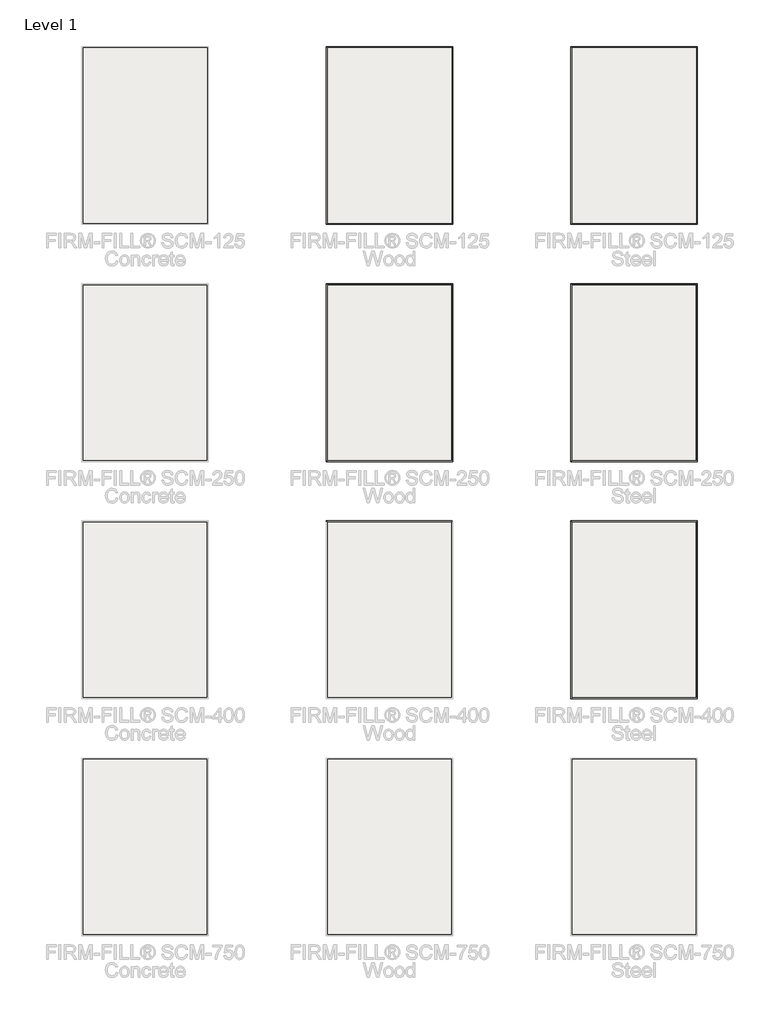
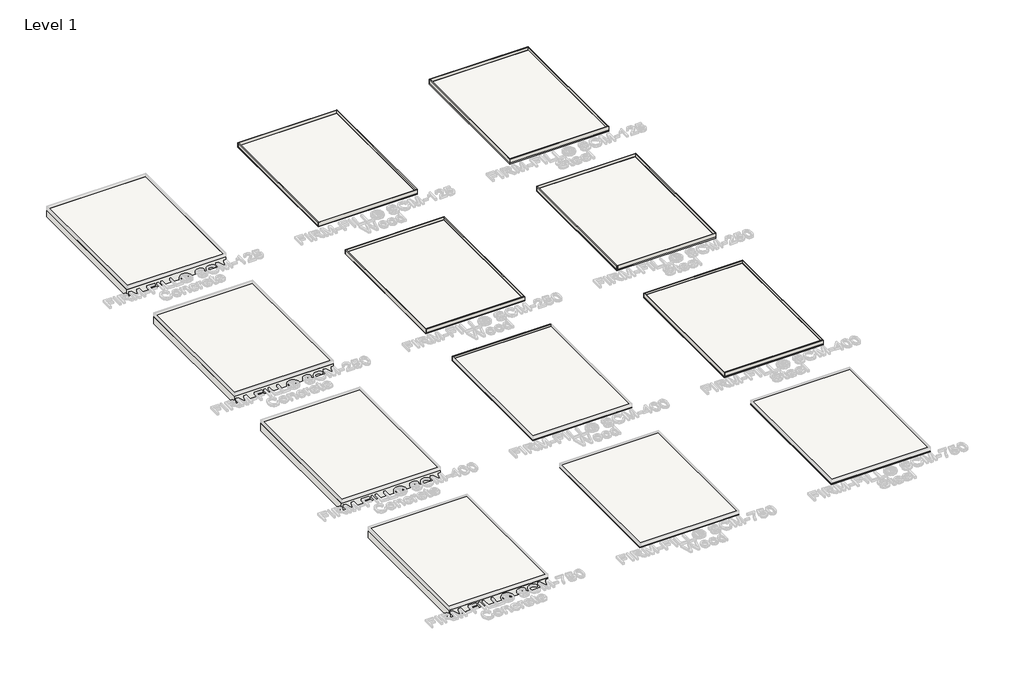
# One storey, part 2 of 10: 34 walls, 26 slabs.
"""IFC4 building model written with IfcOpenShell, lengths in millimetres."""

from ifc_helpers import new_model, si_unit, frame, origin, place, context, project, spatial, polyline, outline, extrude, faceted_brep, element, save

model = new_model("IFC4")

# Units and contexts
model_context = context("Model", 3, world=origin())
ifc_project = project(units=[si_unit("LENGTHUNIT", "METRE", prefix="MILLI")], contexts=[model_context])

# Site, building, storey
site = spatial("IfcSite", under=ifc_project)
building = spatial("IfcBuilding", under=site)
storey = spatial("IfcBuildingStorey", under=building, Name="Level 1", Elevation=0.0)

# Slabs
placement = place(None, origin())
element("IfcSlab", 1, ObjectType="FIRM-FILL® SCM-250", at=placement, inside=storey, context=model_context, shape_type="SweptSolid", body=[
    extrude(outline(polyline([(-2050.1556154, -5280.3364307), (-2050.1556154, -8937.9364307), (-4640.9556154, -8937.9364307), (-4640.9556154, -5280.3364307), (-2050.1556154, -5280.3364307)])), frame((0.0, 0.0, -31.75), z_axis=(0.0, 0.0, 1.0), x_axis=(1.0, 0.0, 0.0)), (0.0, 0.0, 1.0), 31.75),
])
element("IfcSlab", 2, ObjectType="FIRM-FILL® SCM-400", at=placement, inside=storey, context=model_context, shape_type="SweptSolid", body=[
    extrude(outline(polyline([(-2050.1556154, -10207.9364307), (-2050.1556154, -13865.5364307), (-4640.9556154, -13865.5364307), (-4640.9556154, -10207.9364307), (-2050.1556154, -10207.9364307)])), frame((0.0, 0.0, -41.91), z_axis=(0.0, 0.0, 1.0), x_axis=(1.0, 0.0, 0.0)), (0.0, 0.0, 1.0), 41.91),
])
element("IfcSlab", 3, ObjectType="FIRM-FILL® SCM-750", at=placement, inside=storey, context=model_context, shape_type="SweptSolid", body=[
    extrude(outline(polyline([(-2050.1556154, -15135.5364307), (-2050.1556154, -18793.1364307), (-4640.9556154, -18793.1364307), (-4640.9556154, -15135.5364307), (-2050.1556154, -15135.5364307)])), frame((0.0, 0.0, -57.15), z_axis=(0.0, 0.0, 1.0), x_axis=(1.0, 0.0, 0.0)), (0.0, 0.0, 1.0), 57.15),
])
element("IfcSlab", 4, ObjectType="FIRM-FILL® SCM-125", at=placement, inside=storey, context=model_context, shape_type="SweptSolid", body=[
    extrude(outline(polyline([(-2050.1556154, -352.7364307), (-2050.1556154, -4010.3364307), (-4640.9556154, -4010.3364307), (-4640.9556154, -352.7364307), (-2050.1556154, -352.7364307)])), frame((0.0, 0.0, -22.225), z_axis=(0.0, 0.0, 1.0), x_axis=(1.0, 0.0, 0.0)), (0.0, 0.0, 1.0), 22.225),
])
element("IfcSlab", 5, ObjectType="FIRM-FILL® SCM-250", at=placement, inside=storey, context=model_context, shape_type="SweptSolid", body=[
    extrude(outline(polyline([(3029.8443846, -5280.3364307), (3029.8443846, -8937.9364307), (439.0443846, -8937.9364307), (439.0443846, -5280.3364307), (3029.8443846, -5280.3364307)])), frame((0.0, 0.0, -31.75), z_axis=(0.0, 0.0, 1.0), x_axis=(1.0, 0.0, 0.0)), (0.0, 0.0, 1.0), 31.75),
])
element("IfcSlab", 6, ObjectType="FIRM-FILL® SCM-400", at=placement, inside=storey, context=model_context, shape_type="SweptSolid", body=[
    extrude(outline(polyline([(3029.8443846, -10207.9364307), (3029.8443846, -13865.5364307), (439.0443846, -13865.5364307), (439.0443846, -10207.9364307), (3029.8443846, -10207.9364307)])), frame((0.0, 0.0, -41.91), z_axis=(0.0, 0.0, 1.0), x_axis=(1.0, 0.0, 0.0)), (0.0, 0.0, 1.0), 41.91),
])
element("IfcSlab", 7, ObjectType="FIRM-FILL® SCM-750", at=placement, inside=storey, context=model_context, shape_type="SweptSolid", body=[
    extrude(outline(polyline([(3029.8443846, -15135.5364307), (3029.8443846, -18793.1364307), (439.0443846, -18793.1364307), (439.0443846, -15135.5364307), (3029.8443846, -15135.5364307)])), frame((0.0, 0.0, -57.15), z_axis=(0.0, 0.0, 1.0), x_axis=(1.0, 0.0, 0.0)), (0.0, 0.0, 1.0), 57.15),
])
element("IfcSlab", 8, ObjectType="FIRM-FILL® SCM-125", at=placement, inside=storey, context=model_context, shape_type="SweptSolid", body=[
    extrude(outline(polyline([(3029.8443846, -352.7364307), (3029.8443846, -4010.3364307), (439.0443846, -4010.3364307), (439.0443846, -352.7364307), (3029.8443846, -352.7364307)])), frame((0.0, 0.0, -22.225), z_axis=(0.0, 0.0, 1.0), x_axis=(1.0, 0.0, 0.0)), (0.0, 0.0, 1.0), 22.225),
])
element("IfcSlab", 9, ObjectType="FIRM-FILL® SCM-250", at=placement, inside=storey, context=model_context, shape_type="SweptSolid", body=[
    extrude(outline(polyline([(8109.8443846, -5280.3364307), (8109.8443846, -8937.9364307), (5519.0443846, -8937.9364307), (5519.0443846, -5280.3364307), (8109.8443846, -5280.3364307)])), frame((0.0, 0.0, -31.75), z_axis=(0.0, 0.0, 1.0), x_axis=(1.0, 0.0, 0.0)), (0.0, 0.0, 1.0), 31.75),
])
element("IfcSlab", 10, ObjectType="FIRM-FILL® SCM-400", at=placement, inside=storey, context=model_context, shape_type="SweptSolid", body=[
    extrude(outline(polyline([(8109.8443846, -10207.9364307), (8109.8443846, -13865.5364307), (5519.0443846, -13865.5364307), (5519.0443846, -10207.9364307), (8109.8443846, -10207.9364307)])), frame((0.0, 0.0, -41.91), z_axis=(0.0, 0.0, 1.0), x_axis=(1.0, 0.0, 0.0)), (0.0, 0.0, 1.0), 41.91),
])
element("IfcSlab", 11, ObjectType="FIRM-FILL® SCM-750", at=placement, inside=storey, context=model_context, shape_type="SweptSolid", body=[
    extrude(outline(polyline([(8109.8443846, -15135.5364307), (8109.8443846, -18793.1364307), (5519.0443846, -18793.1364307), (5519.0443846, -15135.5364307), (8109.8443846, -15135.5364307)])), frame((0.0, 0.0, -57.15), z_axis=(0.0, 0.0, 1.0), x_axis=(1.0, 0.0, 0.0)), (0.0, 0.0, 1.0), 57.15),
])
element("IfcSlab", 12, ObjectType="FIRM-FILL® SCM-125", at=placement, inside=storey, context=model_context, shape_type="SweptSolid", body=[
    extrude(outline(polyline([(8109.8443846, -352.7364307), (8109.8443846, -4010.3364307), (5519.0443846, -4010.3364307), (5519.0443846, -352.7364307), (8109.8443846, -352.7364307)])), frame((0.0, 0.0, -22.225), z_axis=(0.0, 0.0, 1.0), x_axis=(1.0, 0.0, 0.0)), (0.0, 0.0, 1.0), 22.225),
])
element("IfcSlab", 13, ObjectType="1 3/8\" Metal Deck", at=placement, inside=storey, context=model_context, shape_type="SweptSolid", body=[
    extrude(outline(polyline([(5499.9943846, -15116.4864307), (8128.8943846, -15116.4864307), (8128.8943846, -18812.1864307), (5499.9943846, -18812.1864307), (5499.9943846, -15116.4864307)])), frame((0.0, 0.0, -92.075), z_axis=(0.0, 0.0, 1.0), x_axis=(1.0, 0.0, 0.0)), (0.0, 0.0, 1.0), 34.925),
])
element("IfcSlab", 14, ObjectType="1 3/8\" Metal Deck", at=placement, inside=storey, context=model_context, shape_type="SweptSolid", body=[
    extrude(outline(polyline([(5499.9943846, -10188.8864307), (8128.8943846, -10188.8864307), (8128.8943846, -13884.5864307), (5499.9943846, -13884.5864307), (5499.9943846, -10188.8864307)])), frame((0.0, 0.0, -76.835), z_axis=(0.0, 0.0, 1.0), x_axis=(1.0, 0.0, 0.0)), (0.0, 0.0, 1.0), 34.925),
])
element("IfcSlab", 15, ObjectType="1 3/8\" Metal Deck", at=placement, inside=storey, context=model_context, shape_type="SweptSolid", body=[
    extrude(outline(polyline([(5499.9943846, -5261.2864307), (8128.8943846, -5261.2864307), (8128.8943846, -8956.9864307), (5499.9943846, -8956.9864307), (5499.9943846, -5261.2864307)])), frame((0.0, 0.0, -66.675), z_axis=(0.0, 0.0, 1.0), x_axis=(1.0, 0.0, 0.0)), (0.0, 0.0, 1.0), 34.925),
])
element("IfcSlab", 16, ObjectType="1 3/8\" Metal Deck", at=placement, inside=storey, context=model_context, shape_type="SweptSolid", body=[
    extrude(outline(polyline([(5499.9943846, -333.6864307), (8128.8943846, -333.6864307), (8128.8943846, -4029.3864307), (5499.9943846, -4029.3864307), (5499.9943846, -333.6864307)])), frame((0.0, 0.0, -57.15), z_axis=(0.0, 0.0, 1.0), x_axis=(1.0, 0.0, 0.0)), (0.0, 0.0, 1.0), 34.925),
])
element("IfcSlab", 17, ObjectType="Concrete Subfloor", at=placement, inside=storey, context=model_context, shape_type="SweptSolid", body=[
    extrude(outline(polyline([(-4660.0056154, -15116.4864307), (-2031.1056154, -15116.4864307), (-2031.1056154, -18812.1864307), (-4660.0056154, -18812.1864307), (-4660.0056154, -15116.4864307)])), frame((0.0, 0.0, -260.35), z_axis=(0.0, 0.0, 1.0), x_axis=(1.0, 0.0, 0.0)), (0.0, 0.0, 1.0), 203.2),
])
element("IfcSlab", 18, ObjectType="Concrete Subfloor", at=placement, inside=storey, context=model_context, shape_type="SweptSolid", body=[
    extrude(outline(polyline([(-4660.0056154, -10188.8864307), (-2031.1056154, -10188.8864307), (-2031.1056154, -13884.5864307), (-4660.0056154, -13884.5864307), (-4660.0056154, -10188.8864307)])), frame((0.0, 0.0, -245.11), z_axis=(0.0, 0.0, 1.0), x_axis=(1.0, 0.0, 0.0)), (0.0, 0.0, 1.0), 203.2),
])
element("IfcSlab", 19, ObjectType="Concrete Subfloor", at=placement, inside=storey, context=model_context, shape_type="SweptSolid", body=[
    extrude(outline(polyline([(-4660.0056154, -5261.2864307), (-2031.1056154, -5261.2864307), (-2031.1056154, -8956.9864307), (-4660.0056154, -8956.9864307), (-4660.0056154, -5261.2864307)])), frame((0.0, 0.0, -234.95), z_axis=(0.0, 0.0, 1.0), x_axis=(1.0, 0.0, 0.0)), (0.0, 0.0, 1.0), 203.2),
])
element("IfcSlab", 20, ObjectType="Concrete Subfloor", at=placement, inside=storey, context=model_context, shape_type="SweptSolid", body=[
    extrude(outline(polyline([(-4660.0056154, -333.6864307), (-2031.1056154, -333.6864307), (-2031.1056154, -4029.3864307), (-4660.0056154, -4029.3864307), (-4660.0056154, -333.6864307)])), frame((0.0, 0.0, -225.425), z_axis=(0.0, 0.0, 1.0), x_axis=(1.0, 0.0, 0.0)), (0.0, 0.0, 1.0), 203.2),
])
element("IfcSlab", 21, ObjectType="PERIMETER ISOLATION", at=placement, inside=storey, context=model_context, shape_type="SweptSolid", body=[
    extrude(outline(polyline([(-4644.1306154, -349.5614307), (-2046.9806154, -349.5614307), (-2046.9806154, -4013.5114307), (-4644.1306154, -4013.5114307), (-4644.1306154, -349.5614307)]), holes=[polyline([(-4640.9556154, -352.7364307), (-4640.9556154, -4010.3364307), (-2050.1556154, -4010.3364307), (-2050.1556154, -352.7364307), (-4640.9556154, -352.7364307)])]), frame((0.0, 0.0, -22.225), z_axis=(0.0, 0.0, 1.0), x_axis=(1.0, 0.0, 0.0)), (0.0, 0.0, 1.0), 22.225),
])
element("IfcSlab", 22, ObjectType="PERIMETER ISOLATION", at=placement, inside=storey, context=model_context, shape_type="SweptSolid", body=[
    extrude(outline(polyline([(435.8693846, -349.5614307), (3033.0193846, -349.5614307), (3033.0193846, -4013.5114307), (435.8693846, -4013.5114307), (435.8693846, -349.5614307)]), holes=[polyline([(439.0443846, -352.7364307), (439.0443846, -4010.3364307), (3029.8443846, -4010.3364307), (3029.8443846, -352.7364307), (439.0443846, -352.7364307)])]), frame((0.0, 0.0, -22.225), z_axis=(0.0, 0.0, 1.0), x_axis=(1.0, 0.0, 0.0)), (0.0, 0.0, 1.0), 22.225),
])
element("IfcSlab", 23, ObjectType="Wood Subfloor", at=placement, inside=storey, context=model_context, shape_type="SweptSolid", body=[
    extrude(outline(polyline([(419.9943846, -15116.4864307), (3048.8943846, -15116.4864307), (3048.8943846, -18812.1864307), (419.9943846, -18812.1864307), (419.9943846, -15116.4864307)])), frame((0.0, 0.0, -76.2), z_axis=(0.0, 0.0, 1.0), x_axis=(1.0, 0.0, 0.0)), (0.0, 0.0, 1.0), 19.05),
])
element("IfcSlab", 24, ObjectType="Wood Subfloor", at=placement, inside=storey, context=model_context, shape_type="SweptSolid", body=[
    extrude(outline(polyline([(419.9943846, -10188.8864307), (3048.8943846, -10188.8864307), (3048.8943846, -13884.5864307), (419.9943846, -13884.5864307), (419.9943846, -10188.8864307)])), frame((0.0, 0.0, -60.96), z_axis=(0.0, 0.0, 1.0), x_axis=(1.0, 0.0, 0.0)), (0.0, 0.0, 1.0), 19.05),
])
element("IfcSlab", 25, ObjectType="Wood Subfloor", at=placement, inside=storey, context=model_context, shape_type="SweptSolid", body=[
    extrude(outline(polyline([(419.9943846, -5261.2864307), (3048.8943846, -5261.2864307), (3048.8943846, -8956.9864307), (419.9943846, -8956.9864307), (419.9943846, -5261.2864307)])), frame((0.0, 0.0, -50.8), z_axis=(0.0, 0.0, 1.0), x_axis=(1.0, 0.0, 0.0)), (0.0, 0.0, 1.0), 19.05),
])
element("IfcSlab", 26, ObjectType="Wood Subfloor", at=placement, inside=storey, context=model_context, shape_type="SweptSolid", body=[
    extrude(outline(polyline([(419.9943846, -333.6864307), (3048.8943846, -333.6864307), (3048.8943846, -4029.3864307), (419.9943846, -4029.3864307), (419.9943846, -333.6864307)])), frame((0.0, 0.0, -41.275), z_axis=(0.0, 0.0, 1.0), x_axis=(1.0, 0.0, 0.0)), (0.0, 0.0, 1.0), 19.05),
])

# Walls
element("IfcWall", 27, ObjectType="5/8\" Gypsum Board", at=placement, inside=storey, context=model_context, shape_type="Brep", body=[
    faceted_brep([(419.9943846, -10204.7614307, -41.91), (435.8693846, -10204.7614307, -41.91), (3033.0193846, -10204.7614307, -41.91), (3033.0193846, -10204.7614307, 59.69), (435.8693846, -10204.7614307, 59.69), (419.9943846, -10204.7614307, 59.69), (419.9943846, -10188.8864307, -41.91), (419.9943846, -10188.8864307, 59.69), (3033.0193846, -10188.8864307, 59.69), (3033.0193846, -10188.8864307, -41.91)], [[[0, 1, 2, 3, 4, 5]], [[6, 7, 8, 9]], [[2, 1, 0, 6, 9]], [[5, 4, 3, 8, 7]], [[3, 2, 9, 8]], [[0, 5, 7, 6]]]),
])
element("IfcWall", 28, ObjectType="5/8\" Gypsum Board", at=placement, inside=storey, context=model_context, shape_type="Brep", body=[
    faceted_brep([(5499.9943846, -10204.7614307, -41.91), (5499.9943846, -13884.5864307, -41.91), (5499.9943846, -13884.5864307, 59.69), (5499.9943846, -10204.7614307, 59.69), (5515.8693846, -10204.7614307, -41.91), (5515.8693846, -10204.7614307, 59.69), (5515.8693846, -13868.7114307, 59.69), (5515.8693846, -13884.5864307, 59.69), (5515.8693846, -13884.5864307, -41.91), (5515.8693846, -13868.7114307, -41.91)], [[[0, 1, 2, 3]], [[4, 5, 6, 7, 8, 9]], [[1, 0, 4, 9, 8]], [[3, 2, 7, 6, 5]], [[2, 1, 8, 7]], [[0, 3, 5, 4]]]),
])
element("IfcWall", 29, ObjectType="5/8\" Gypsum Board", at=placement, inside=storey, context=model_context, shape_type="Brep", body=[
    faceted_brep([(8128.8943846, -13868.7114307, -41.91), (8113.0193846, -13868.7114307, -41.91), (5515.8693846, -13868.7114307, -41.91), (5515.8693846, -13868.7114307, 59.69), (8113.0193846, -13868.7114307, 59.69), (8128.8943846, -13868.7114307, 59.69), (8128.8943846, -13884.5864307, -41.91), (8128.8943846, -13884.5864307, 59.69), (5515.8693846, -13884.5864307, 59.69), (5515.8693846, -13884.5864307, -41.91)], [[[0, 1, 2, 3, 4, 5]], [[6, 7, 8, 9]], [[2, 1, 0, 6, 9]], [[5, 4, 3, 8, 7]], [[3, 2, 9, 8]], [[0, 5, 7, 6]]]),
])
element("IfcWall", 30, ObjectType="5/8\" Gypsum Board", at=placement, inside=storey, context=model_context, shape_type="Brep", body=[
    faceted_brep([(8113.0193846, -10188.8864307, -41.91), (8113.0193846, -10204.7614307, -41.91), (8113.0193846, -13868.7114307, -41.91), (8113.0193846, -13868.7114307, 59.69), (8113.0193846, -10204.7614307, 59.69), (8113.0193846, -10188.8864307, 59.69), (8128.8943846, -10188.8864307, -41.91), (8128.8943846, -10188.8864307, 59.69), (8128.8943846, -13868.7114307, 59.69), (8128.8943846, -13868.7114307, -41.91)], [[[0, 1, 2, 3, 4, 5]], [[6, 7, 8, 9]], [[2, 1, 0, 6, 9]], [[5, 4, 3, 8, 7]], [[3, 2, 9, 8]], [[0, 5, 7, 6]]]),
])
element("IfcWall", 31, ObjectType="5/8\" Gypsum Board", at=placement, inside=storey, context=model_context, shape_type="Brep", body=[
    faceted_brep([(5499.9943846, -10204.7614307, -41.91), (5515.8693846, -10204.7614307, -41.91), (8113.0193846, -10204.7614307, -41.91), (8113.0193846, -10204.7614307, 59.69), (5515.8693846, -10204.7614307, 59.69), (5499.9943846, -10204.7614307, 59.69), (5499.9943846, -10188.8864307, -41.91), (5499.9943846, -10188.8864307, 59.69), (8113.0193846, -10188.8864307, 59.69), (8113.0193846, -10188.8864307, -41.91)], [[[0, 1, 2, 3, 4, 5]], [[6, 7, 8, 9]], [[2, 1, 0, 6, 9]], [[5, 4, 3, 8, 7]], [[3, 2, 9, 8]], [[0, 5, 7, 6]]]),
])
element("IfcWall", 32, ObjectType="5/8\" Gypsum Board", at=placement, inside=storey, context=model_context, shape_type="Brep", body=[
    faceted_brep([(419.9943846, -5277.1614307, -31.75), (419.9943846, -8956.9864307, -31.75), (419.9943846, -8956.9864307, 69.85), (419.9943846, -5277.1614307, 69.85), (435.8693846, -5277.1614307, -31.75), (435.8693846, -5277.1614307, 69.85), (435.8693846, -8941.1114307, 69.85), (435.8693846, -8956.9864307, 69.85), (435.8693846, -8956.9864307, -31.75), (435.8693846, -8941.1114307, -31.75)], [[[0, 1, 2, 3]], [[4, 5, 6, 7, 8, 9]], [[1, 0, 4, 9, 8]], [[3, 2, 7, 6, 5]], [[2, 1, 8, 7]], [[0, 3, 5, 4]]]),
])
element("IfcWall", 33, ObjectType="5/8\" Gypsum Board", at=placement, inside=storey, context=model_context, shape_type="Brep", body=[
    faceted_brep([(3048.8943846, -8941.1114307, -31.75), (3033.0193846, -8941.1114307, -31.75), (435.8693846, -8941.1114307, -31.75), (435.8693846, -8941.1114307, 69.85), (3033.0193846, -8941.1114307, 69.85), (3048.8943846, -8941.1114307, 69.85), (3048.8943846, -8956.9864307, -31.75), (3048.8943846, -8956.9864307, 69.85), (435.8693846, -8956.9864307, 69.85), (435.8693846, -8956.9864307, -31.75)], [[[0, 1, 2, 3, 4, 5]], [[6, 7, 8, 9]], [[2, 1, 0, 6, 9]], [[5, 4, 3, 8, 7]], [[3, 2, 9, 8]], [[0, 5, 7, 6]]]),
])
element("IfcWall", 34, ObjectType="5/8\" Gypsum Board", at=placement, inside=storey, context=model_context, shape_type="Brep", body=[
    faceted_brep([(3033.0193846, -5261.2864307, -31.75), (3033.0193846, -5277.1614307, -31.75), (3033.0193846, -8941.1114307, -31.75), (3033.0193846, -8941.1114307, 69.85), (3033.0193846, -5277.1614307, 69.85), (3033.0193846, -5261.2864307, 69.85), (3048.8943846, -5261.2864307, -31.75), (3048.8943846, -5261.2864307, 69.85), (3048.8943846, -8941.1114307, 69.85), (3048.8943846, -8941.1114307, -31.75)], [[[0, 1, 2, 3, 4, 5]], [[6, 7, 8, 9]], [[2, 1, 0, 6, 9]], [[5, 4, 3, 8, 7]], [[3, 2, 9, 8]], [[0, 5, 7, 6]]]),
])
element("IfcWall", 35, ObjectType="5/8\" Gypsum Board", at=placement, inside=storey, context=model_context, shape_type="Brep", body=[
    faceted_brep([(419.9943846, -5277.1614307, -31.75), (435.8693846, -5277.1614307, -31.75), (3033.0193846, -5277.1614307, -31.75), (3033.0193846, -5277.1614307, 69.85), (435.8693846, -5277.1614307, 69.85), (419.9943846, -5277.1614307, 69.85), (419.9943846, -5261.2864307, -31.75), (419.9943846, -5261.2864307, 69.85), (3033.0193846, -5261.2864307, 69.85), (3033.0193846, -5261.2864307, -31.75)], [[[0, 1, 2, 3, 4, 5]], [[6, 7, 8, 9]], [[2, 1, 0, 6, 9]], [[5, 4, 3, 8, 7]], [[3, 2, 9, 8]], [[0, 5, 7, 6]]]),
])
element("IfcWall", 36, ObjectType="5/8\" Gypsum Board", at=placement, inside=storey, context=model_context, shape_type="Brep", body=[
    faceted_brep([(5499.9943846, -5277.1614307, -31.75), (5499.9943846, -8956.9864307, -31.75), (5499.9943846, -8956.9864307, 69.85), (5499.9943846, -5277.1614307, 69.85), (5515.8693846, -5277.1614307, -31.75), (5515.8693846, -5277.1614307, 69.85), (5515.8693846, -8941.1114307, 69.85), (5515.8693846, -8956.9864307, 69.85), (5515.8693846, -8956.9864307, -31.75), (5515.8693846, -8941.1114307, -31.75)], [[[0, 1, 2, 3]], [[4, 5, 6, 7, 8, 9]], [[1, 0, 4, 9, 8]], [[3, 2, 7, 6, 5]], [[2, 1, 8, 7]], [[0, 3, 5, 4]]]),
])
element("IfcWall", 37, ObjectType="5/8\" Gypsum Board", at=placement, inside=storey, context=model_context, shape_type="Brep", body=[
    faceted_brep([(8128.8943846, -8941.1114307, -31.75), (8113.0193846, -8941.1114307, -31.75), (5515.8693846, -8941.1114307, -31.75), (5515.8693846, -8941.1114307, 69.85), (8113.0193846, -8941.1114307, 69.85), (8128.8943846, -8941.1114307, 69.85), (8128.8943846, -8956.9864307, -31.75), (8128.8943846, -8956.9864307, 69.85), (5515.8693846, -8956.9864307, 69.85), (5515.8693846, -8956.9864307, -31.75)], [[[0, 1, 2, 3, 4, 5]], [[6, 7, 8, 9]], [[2, 1, 0, 6, 9]], [[5, 4, 3, 8, 7]], [[3, 2, 9, 8]], [[0, 5, 7, 6]]]),
])
element("IfcWall", 38, ObjectType="5/8\" Gypsum Board", at=placement, inside=storey, context=model_context, shape_type="Brep", body=[
    faceted_brep([(8113.0193846, -5261.2864307, -31.75), (8113.0193846, -5277.1614307, -31.75), (8113.0193846, -8941.1114307, -31.75), (8113.0193846, -8941.1114307, 69.85), (8113.0193846, -5277.1614307, 69.85), (8113.0193846, -5261.2864307, 69.85), (8128.8943846, -5261.2864307, -31.75), (8128.8943846, -5261.2864307, 69.85), (8128.8943846, -8941.1114307, 69.85), (8128.8943846, -8941.1114307, -31.75)], [[[0, 1, 2, 3, 4, 5]], [[6, 7, 8, 9]], [[2, 1, 0, 6, 9]], [[5, 4, 3, 8, 7]], [[3, 2, 9, 8]], [[0, 5, 7, 6]]]),
])
element("IfcWall", 39, ObjectType="5/8\" Gypsum Board", at=placement, inside=storey, context=model_context, shape_type="Brep", body=[
    faceted_brep([(5499.9943846, -5277.1614307, -31.75), (5515.8693846, -5277.1614307, -31.75), (8113.0193846, -5277.1614307, -31.75), (8113.0193846, -5277.1614307, 69.85), (5515.8693846, -5277.1614307, 69.85), (5499.9943846, -5277.1614307, 69.85), (5499.9943846, -5261.2864307, -31.75), (5499.9943846, -5261.2864307, 69.85), (8113.0193846, -5261.2864307, 69.85), (8113.0193846, -5261.2864307, -31.75)], [[[0, 1, 2, 3, 4, 5]], [[6, 7, 8, 9]], [[2, 1, 0, 6, 9]], [[5, 4, 3, 8, 7]], [[3, 2, 9, 8]], [[0, 5, 7, 6]]]),
])
element("IfcWall", 40, ObjectType="5/8\" Gypsum Board", at=placement, inside=storey, context=model_context, shape_type="Brep", body=[
    faceted_brep([(419.9943846, -349.5614307, -22.225), (419.9943846, -4029.3864307, -22.225), (419.9943846, -4029.3864307, 79.375), (419.9943846, -349.5614307, 79.375), (435.8693846, -349.5614307, -22.225), (435.8693846, -349.5614307, 79.375), (435.8693846, -4013.5114307, 79.375), (435.8693846, -4029.3864307, 79.375), (435.8693846, -4029.3864307, -22.225), (435.8693846, -4013.5114307, -22.225)], [[[0, 1, 2, 3]], [[4, 5, 6, 7, 8, 9]], [[1, 0, 4, 9, 8]], [[3, 2, 7, 6, 5]], [[2, 1, 8, 7]], [[0, 3, 5, 4]]]),
])
element("IfcWall", 41, ObjectType="5/8\" Gypsum Board", at=placement, inside=storey, context=model_context, shape_type="Brep", body=[
    faceted_brep([(3048.8943846, -4013.5114307, -22.225), (3033.0193846, -4013.5114307, -22.225), (435.8693846, -4013.5114307, -22.225), (435.8693846, -4013.5114307, 79.375), (3033.0193846, -4013.5114307, 79.375), (3048.8943846, -4013.5114307, 79.375), (3048.8943846, -4029.3864307, -22.225), (3048.8943846, -4029.3864307, 79.375), (435.8693846, -4029.3864307, 79.375), (435.8693846, -4029.3864307, -22.225)], [[[0, 1, 2, 3, 4, 5]], [[6, 7, 8, 9]], [[2, 1, 0, 6, 9]], [[5, 4, 3, 8, 7]], [[3, 2, 9, 8]], [[0, 5, 7, 6]]]),
])
element("IfcWall", 42, ObjectType="5/8\" Gypsum Board", at=placement, inside=storey, context=model_context, shape_type="Brep", body=[
    faceted_brep([(3033.0193846, -333.6864307, -22.225), (3033.0193846, -349.5614307, -22.225), (3033.0193846, -4013.5114307, -22.225), (3033.0193846, -4013.5114307, 79.375), (3033.0193846, -349.5614307, 79.375), (3033.0193846, -333.6864307, 79.375), (3048.8943846, -333.6864307, -22.225), (3048.8943846, -333.6864307, 79.375), (3048.8943846, -4013.5114307, 79.375), (3048.8943846, -4013.5114307, -22.225)], [[[0, 1, 2, 3, 4, 5]], [[6, 7, 8, 9]], [[2, 1, 0, 6, 9]], [[5, 4, 3, 8, 7]], [[3, 2, 9, 8]], [[0, 5, 7, 6]]]),
])
element("IfcWall", 43, ObjectType="5/8\" Gypsum Board", at=placement, inside=storey, context=model_context, shape_type="Brep", body=[
    faceted_brep([(419.9943846, -349.5614307, -22.225), (435.8693846, -349.5614307, -22.225), (3033.0193846, -349.5614307, -22.225), (3033.0193846, -349.5614307, 79.375), (435.8693846, -349.5614307, 79.375), (419.9943846, -349.5614307, 79.375), (419.9943846, -333.6864307, -22.225), (419.9943846, -333.6864307, 79.375), (3033.0193846, -333.6864307, 79.375), (3033.0193846, -333.6864307, -22.225)], [[[0, 1, 2, 3, 4, 5]], [[6, 7, 8, 9]], [[2, 1, 0, 6, 9]], [[5, 4, 3, 8, 7]], [[3, 2, 9, 8]], [[0, 5, 7, 6]]]),
])
element("IfcWall", 44, ObjectType="5/8\" Gypsum Board", at=placement, inside=storey, context=model_context, shape_type="Brep", body=[
    faceted_brep([(5499.9943846, -349.5614307, -22.225), (5499.9943846, -4029.3864307, -22.225), (5499.9943846, -4029.3864307, 79.375), (5499.9943846, -349.5614307, 79.375), (5515.8693846, -349.5614307, -22.225), (5515.8693846, -349.5614307, 79.375), (5515.8693846, -4013.5114307, 79.375), (5515.8693846, -4029.3864307, 79.375), (5515.8693846, -4029.3864307, -22.225), (5515.8693846, -4013.5114307, -22.225)], [[[0, 1, 2, 3]], [[4, 5, 6, 7, 8, 9]], [[1, 0, 4, 9, 8]], [[3, 2, 7, 6, 5]], [[2, 1, 8, 7]], [[0, 3, 5, 4]]]),
])
element("IfcWall", 45, ObjectType="5/8\" Gypsum Board", at=placement, inside=storey, context=model_context, shape_type="Brep", body=[
    faceted_brep([(8128.8943846, -4013.5114307, -22.225), (8113.0193846, -4013.5114307, -22.225), (5515.8693846, -4013.5114307, -22.225), (5515.8693846, -4013.5114307, 79.375), (8113.0193846, -4013.5114307, 79.375), (8128.8943846, -4013.5114307, 79.375), (8128.8943846, -4029.3864307, -22.225), (8128.8943846, -4029.3864307, 79.375), (5515.8693846, -4029.3864307, 79.375), (5515.8693846, -4029.3864307, -22.225)], [[[0, 1, 2, 3, 4, 5]], [[6, 7, 8, 9]], [[2, 1, 0, 6, 9]], [[5, 4, 3, 8, 7]], [[3, 2, 9, 8]], [[0, 5, 7, 6]]]),
])
element("IfcWall", 46, ObjectType="5/8\" Gypsum Board", at=placement, inside=storey, context=model_context, shape_type="Brep", body=[
    faceted_brep([(8113.0193846, -333.6864307, -22.225), (8113.0193846, -349.5614307, -22.225), (8113.0193846, -4013.5114307, -22.225), (8113.0193846, -4013.5114307, 79.375), (8113.0193846, -349.5614307, 79.375), (8113.0193846, -333.6864307, 79.375), (8128.8943846, -333.6864307, -22.225), (8128.8943846, -333.6864307, 79.375), (8128.8943846, -4013.5114307, 79.375), (8128.8943846, -4013.5114307, -22.225)], [[[0, 1, 2, 3, 4, 5]], [[6, 7, 8, 9]], [[2, 1, 0, 6, 9]], [[5, 4, 3, 8, 7]], [[3, 2, 9, 8]], [[0, 5, 7, 6]]]),
])
element("IfcWall", 47, ObjectType="5/8\" Gypsum Board", at=placement, inside=storey, context=model_context, shape_type="Brep", body=[
    faceted_brep([(5499.9943846, -349.5614307, -22.225), (5515.8693846, -349.5614307, -22.225), (8113.0193846, -349.5614307, -22.225), (8113.0193846, -349.5614307, 79.375), (5515.8693846, -349.5614307, 79.375), (5499.9943846, -349.5614307, 79.375), (5499.9943846, -333.6864307, -22.225), (5499.9943846, -333.6864307, 79.375), (8113.0193846, -333.6864307, 79.375), (8113.0193846, -333.6864307, -22.225)], [[[0, 1, 2, 3, 4, 5]], [[6, 7, 8, 9]], [[2, 1, 0, 6, 9]], [[5, 4, 3, 8, 7]], [[3, 2, 9, 8]], [[0, 5, 7, 6]]]),
])
element("IfcWall", 48, ObjectType="Perimeter Isolation", at=placement, inside=storey, context=model_context, shape_type="Brep", body=[
    faceted_brep([(5515.8693846, -10204.7614307, -41.91), (5515.8693846, -13868.7114307, -41.91), (5515.8693846, -13868.7114307, 0.0), (5515.8693846, -10204.7614307, 0.0), (5519.0443846, -10204.7614307, -41.91), (5519.0443846, -10204.7614307, 0.0), (5519.0443846, -10207.9364307, 0.0), (5519.0443846, -13865.5364307, 0.0), (5519.0443846, -13868.7114307, 0.0), (5519.0443846, -13868.7114307, -41.91), (5519.0443846, -13865.5364307, -41.91), (5519.0443846, -10207.9364307, -41.91)], [[[0, 1, 2, 3]], [[4, 5, 6, 7, 8, 9, 10, 11]], [[1, 0, 4, 11, 10, 9]], [[3, 2, 8, 7, 6, 5]], [[0, 3, 5, 4]], [[2, 1, 9, 8]]]),
])
element("IfcWall", 49, ObjectType="Perimeter Isolation", at=placement, inside=storey, context=model_context, shape_type="Brep", body=[
    faceted_brep([(5519.0443846, -10207.9364307, -41.91), (8109.8443846, -10207.9364307, -41.91), (8113.0193846, -10207.9364307, -41.91), (8113.0193846, -10207.9364307, 0.0), (8109.8443846, -10207.9364307, 0.0), (5519.0443846, -10207.9364307, 0.0), (5519.0443846, -10204.7614307, -41.91), (5519.0443846, -10204.7614307, 0.0), (8113.0193846, -10204.7614307, 0.0), (8113.0193846, -10204.7614307, -41.91)], [[[0, 1, 2, 3, 4, 5]], [[6, 7, 8, 9]], [[2, 1, 0, 6, 9]], [[5, 4, 3, 8, 7]], [[0, 5, 7, 6]], [[3, 2, 9, 8]]]),
])
element("IfcWall", 50, ObjectType="Perimeter Isolation", at=placement, inside=storey, context=model_context, shape_type="Brep", body=[
    faceted_brep([(8109.8443846, -10207.9364307, -41.91), (8109.8443846, -13865.5364307, -41.91), (8109.8443846, -13868.7114307, -41.91), (8109.8443846, -13868.7114307, 0.0), (8109.8443846, -13865.5364307, 0.0), (8109.8443846, -10207.9364307, 0.0), (8113.0193846, -10207.9364307, -41.91), (8113.0193846, -10207.9364307, 0.0), (8113.0193846, -13868.7114307, 0.0), (8113.0193846, -13868.7114307, -41.91)], [[[0, 1, 2, 3, 4, 5]], [[6, 7, 8, 9]], [[2, 1, 0, 6, 9]], [[5, 4, 3, 8, 7]], [[0, 5, 7, 6]], [[3, 2, 9, 8]]]),
])
element("IfcWall", 51, ObjectType="Perimeter Isolation", at=placement, inside=storey, context=model_context, shape_type="SweptSolid", body=[
    extrude(outline(polyline([(5519.0443846, -13865.5364307), (8109.8443846, -13865.5364307), (8109.8443846, -13868.7114307), (5519.0443846, -13868.7114307), (5519.0443846, -13865.5364307)])), frame((0.0, 0.0, -41.91), z_axis=(0.0, 0.0, 1.0), x_axis=(1.0, 0.0, 0.0)), (0.0, 0.0, 1.0), 41.91),
])
element("IfcWall", 52, ObjectType="Perimeter Isolation", at=placement, inside=storey, context=model_context, shape_type="Brep", body=[
    faceted_brep([(439.0443846, -10207.9364307, -41.91), (3029.8443846, -10207.9364307, -41.91), (3033.0193846, -10207.9364307, -41.91), (3033.0193846, -10207.9364307, 0.0), (3029.8443846, -10207.9364307, 0.0), (439.0443846, -10207.9364307, 0.0), (439.0443846, -10204.7614307, -41.91), (439.0443846, -10204.7614307, 0.0), (3033.0193846, -10204.7614307, 0.0), (3033.0193846, -10204.7614307, -41.91)], [[[0, 1, 2, 3, 4, 5]], [[6, 7, 8, 9]], [[2, 1, 0, 6, 9]], [[5, 4, 3, 8, 7]], [[0, 5, 7, 6]], [[3, 2, 9, 8]]]),
])
element("IfcWall", 53, ObjectType="Perimeter Isolation", at=placement, inside=storey, context=model_context, shape_type="Brep", body=[
    faceted_brep([(5515.8693846, -5277.1614307, -31.75), (5515.8693846, -8941.1114307, -31.75), (5515.8693846, -8941.1114307, 0.0), (5515.8693846, -5277.1614307, 0.0), (5519.0443846, -5277.1614307, -31.75), (5519.0443846, -5277.1614307, 0.0), (5519.0443846, -5280.3364307, 0.0), (5519.0443846, -8937.9364307, 0.0), (5519.0443846, -8941.1114307, 0.0), (5519.0443846, -8941.1114307, -31.75), (5519.0443846, -8937.9364307, -31.75), (5519.0443846, -5280.3364307, -31.75)], [[[0, 1, 2, 3]], [[4, 5, 6, 7, 8, 9, 10, 11]], [[1, 0, 4, 11, 10, 9]], [[3, 2, 8, 7, 6, 5]], [[0, 3, 5, 4]], [[2, 1, 9, 8]]]),
])
element("IfcWall", 54, ObjectType="Perimeter Isolation", at=placement, inside=storey, context=model_context, shape_type="Brep", body=[
    faceted_brep([(5519.0443846, -5280.3364307, -31.75), (8109.8443846, -5280.3364307, -31.75), (8113.0193846, -5280.3364307, -31.75), (8113.0193846, -5280.3364307, 0.0), (8109.8443846, -5280.3364307, 0.0), (5519.0443846, -5280.3364307, 0.0), (5519.0443846, -5277.1614307, -31.75), (5519.0443846, -5277.1614307, 0.0), (8113.0193846, -5277.1614307, 0.0), (8113.0193846, -5277.1614307, -31.75)], [[[0, 1, 2, 3, 4, 5]], [[6, 7, 8, 9]], [[2, 1, 0, 6, 9]], [[5, 4, 3, 8, 7]], [[0, 5, 7, 6]], [[3, 2, 9, 8]]]),
])
element("IfcWall", 55, ObjectType="Perimeter Isolation", at=placement, inside=storey, context=model_context, shape_type="Brep", body=[
    faceted_brep([(8109.8443846, -5280.3364307, -31.75), (8109.8443846, -8937.9364307, -31.75), (8109.8443846, -8941.1114307, -31.75), (8109.8443846, -8941.1114307, 0.0), (8109.8443846, -8937.9364307, 0.0), (8109.8443846, -5280.3364307, 0.0), (8113.0193846, -5280.3364307, -31.75), (8113.0193846, -5280.3364307, 0.0), (8113.0193846, -8941.1114307, 0.0), (8113.0193846, -8941.1114307, -31.75)], [[[0, 1, 2, 3, 4, 5]], [[6, 7, 8, 9]], [[2, 1, 0, 6, 9]], [[5, 4, 3, 8, 7]], [[0, 5, 7, 6]], [[3, 2, 9, 8]]]),
])
element("IfcWall", 56, ObjectType="Perimeter Isolation", at=placement, inside=storey, context=model_context, shape_type="SweptSolid", body=[
    extrude(outline(polyline([(5519.0443846, -8937.9364307), (8109.8443846, -8937.9364307), (8109.8443846, -8941.1114307), (5519.0443846, -8941.1114307), (5519.0443846, -8937.9364307)])), frame((0.0, 0.0, -31.75), z_axis=(0.0, 0.0, 1.0), x_axis=(1.0, 0.0, 0.0)), (0.0, 0.0, 1.0), 31.75),
])
element("IfcWall", 57, ObjectType="Perimeter Isolation", at=placement, inside=storey, context=model_context, shape_type="Brep", body=[
    faceted_brep([(435.8693846, -5277.1614307, -31.75), (435.8693846, -8941.1114307, -31.75), (435.8693846, -8941.1114307, 0.0), (435.8693846, -5277.1614307, 0.0), (439.0443846, -5277.1614307, -31.75), (439.0443846, -5277.1614307, 0.0), (439.0443846, -5280.3364307, 0.0), (439.0443846, -8937.9364307, 0.0), (439.0443846, -8941.1114307, 0.0), (439.0443846, -8941.1114307, -31.75), (439.0443846, -8937.9364307, -31.75), (439.0443846, -5280.3364307, -31.75)], [[[0, 1, 2, 3]], [[4, 5, 6, 7, 8, 9, 10, 11]], [[1, 0, 4, 11, 10, 9]], [[3, 2, 8, 7, 6, 5]], [[0, 3, 5, 4]], [[2, 1, 9, 8]]]),
])
element("IfcWall", 58, ObjectType="Perimeter Isolation", at=placement, inside=storey, context=model_context, shape_type="Brep", body=[
    faceted_brep([(439.0443846, -5280.3364307, -31.75), (3029.8443846, -5280.3364307, -31.75), (3033.0193846, -5280.3364307, -31.75), (3033.0193846, -5280.3364307, 0.0), (3029.8443846, -5280.3364307, 0.0), (439.0443846, -5280.3364307, 0.0), (439.0443846, -5277.1614307, -31.75), (439.0443846, -5277.1614307, 0.0), (3033.0193846, -5277.1614307, 0.0), (3033.0193846, -5277.1614307, -31.75)], [[[0, 1, 2, 3, 4, 5]], [[6, 7, 8, 9]], [[2, 1, 0, 6, 9]], [[5, 4, 3, 8, 7]], [[0, 5, 7, 6]], [[3, 2, 9, 8]]]),
])
element("IfcWall", 59, ObjectType="Perimeter Isolation", at=placement, inside=storey, context=model_context, shape_type="Brep", body=[
    faceted_brep([(3029.8443846, -5280.3364307, -31.75), (3029.8443846, -8937.9364307, -31.75), (3029.8443846, -8941.1114307, -31.75), (3029.8443846, -8941.1114307, 0.0), (3029.8443846, -8937.9364307, 0.0), (3029.8443846, -5280.3364307, 0.0), (3033.0193846, -5280.3364307, -31.75), (3033.0193846, -5280.3364307, 0.0), (3033.0193846, -8941.1114307, 0.0), (3033.0193846, -8941.1114307, -31.75)], [[[0, 1, 2, 3, 4, 5]], [[6, 7, 8, 9]], [[2, 1, 0, 6, 9]], [[5, 4, 3, 8, 7]], [[0, 5, 7, 6]], [[3, 2, 9, 8]]]),
])
element("IfcWall", 60, ObjectType="Perimeter Isolation", at=placement, inside=storey, context=model_context, shape_type="SweptSolid", body=[
    extrude(outline(polyline([(439.0443846, -8937.9364307), (3029.8443846, -8937.9364307), (3029.8443846, -8941.1114307), (439.0443846, -8941.1114307), (439.0443846, -8937.9364307)])), frame((0.0, 0.0, -31.75), z_axis=(0.0, 0.0, 1.0), x_axis=(1.0, 0.0, 0.0)), (0.0, 0.0, 1.0), 31.75),
])

save(model, "model.ifc")
